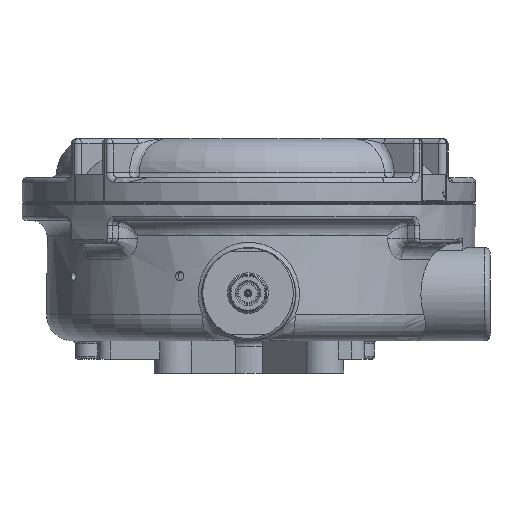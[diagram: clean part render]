
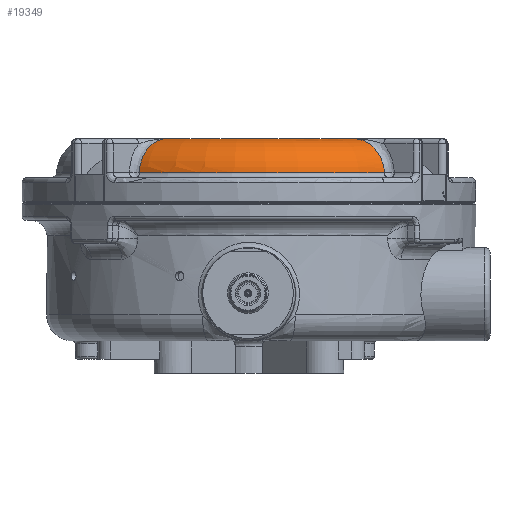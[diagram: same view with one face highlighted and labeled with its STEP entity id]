
A CAD part, left-side view. The second image highlights one B-rep face of the part: STEP entity #19349.
In plain terms, the highlighted toroidal (fillet/blend) face has major radius 60.5 mm and minor radius 14 mm.
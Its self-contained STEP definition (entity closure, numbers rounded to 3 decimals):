
#17139 = VERTEX_POINT('',#17140);
#17140 = CARTESIAN_POINT('',(-51.518,31.719,78.));
#17153 = EDGE_CURVE('',#17154,#17139,#17156,.T.);
#17154 = VERTEX_POINT('',#17155);
#17155 = CARTESIAN_POINT('',(-45.228,-40.183,78.));
#17156 = CIRCLE('',#17157,60.5);
#17157 = AXIS2_PLACEMENT_3D('',#17158,#17159,#17160);
#17158 = CARTESIAN_POINT('',(0.,0.,78.));
#17159 = DIRECTION('',(0.,0.,-1.));
#17160 = DIRECTION('',(-0.996,-0.087,-0.));
#19349 = ADVANCED_FACE('',(#19350),#19417,.T.);
#19350 = FACE_BOUND('',#19351,.T.);
#19351 = EDGE_LOOP('',(#19352,#19353,#19389,#19398,#19409));
#19352 = ORIENTED_EDGE('',*,*,#17153,.T.);
#19353 = ORIENTED_EDGE('',*,*,#19354,.F.);
#19354 = EDGE_CURVE('',#19355,#17139,#19357,.T.);
#19355 = VERTEX_POINT('',#19356);
#19356 = CARTESIAN_POINT('',(-61.31,42.276,64.875));
#19357 = B_SPLINE_CURVE_WITH_KNOTS('',3,(#19358,#19359,#19360,#19361,
    #19362,#19363,#19364,#19365,#19366,#19367,#19368,#19369,#19370,
    #19371,#19372,#19373,#19374,#19375,#19376,#19377,#19378,#19379,
    #19380,#19381,#19382,#19383,#19384,#19385,#19386,#19387,#19388),
  .UNSPECIFIED.,.F.,.F.,(4,3,3,3,3,3,3,3,3,3,4),(0.106,
    0.376,0.469,0.647,0.838,
    1.299,1.577,1.962,2.13,
    2.641,2.684),.UNSPECIFIED.);
#19358 = CARTESIAN_POINT('',(-61.31,42.276,
    64.875));
#19359 = CARTESIAN_POINT('',(-61.277,42.241,
    65.62));
#19360 = CARTESIAN_POINT('',(-61.202,42.162,
    66.367));
#19361 = CARTESIAN_POINT('',(-61.086,42.038,
    67.097));
#19362 = CARTESIAN_POINT('',(-61.046,41.996,
    67.346));
#19363 = CARTESIAN_POINT('',(-61.002,41.949,
    67.593));
#19364 = CARTESIAN_POINT('',(-60.953,41.897,
    67.838));
#19365 = CARTESIAN_POINT('',(-60.858,41.796,
    68.312));
#19366 = CARTESIAN_POINT('',(-60.746,41.678,
    68.777));
#19367 = CARTESIAN_POINT('',(-60.618,41.542,
    69.231));
#19368 = CARTESIAN_POINT('',(-60.481,41.396,
    69.716));
#19369 = CARTESIAN_POINT('',(-60.325,41.23,
    70.193));
#19370 = CARTESIAN_POINT('',(-60.149,41.043,
    70.655));
#19371 = CARTESIAN_POINT('',(-59.725,40.592,
    71.772));
#19372 = CARTESIAN_POINT('',(-59.19,40.022,
    72.808));
#19373 = CARTESIAN_POINT('',(-58.581,39.37,
    73.711));
#19374 = CARTESIAN_POINT('',(-58.215,38.979,
    74.255));
#19375 = CARTESIAN_POINT('',(-57.815,38.551,
    74.76));
#19376 = CARTESIAN_POINT('',(-57.39,38.094,
    75.214));
#19377 = CARTESIAN_POINT('',(-56.798,37.459,
    75.846));
#19378 = CARTESIAN_POINT('',(-56.156,36.768,
    76.379));
#19379 = CARTESIAN_POINT('',(-55.49,36.048,
    76.8));
#19380 = CARTESIAN_POINT('',(-55.2,35.735,
    76.983));
#19381 = CARTESIAN_POINT('',(-54.903,35.413,
    77.147));
#19382 = CARTESIAN_POINT('',(-54.6,35.085,
    77.29));
#19383 = CARTESIAN_POINT('',(-53.682,34.089,
    77.723));
#19384 = CARTESIAN_POINT('',(-52.715,33.034,
    77.961));
#19385 = CARTESIAN_POINT('',(-51.761,31.986,
    77.996));
#19386 = CARTESIAN_POINT('',(-51.68,31.897,
    77.999));
#19387 = CARTESIAN_POINT('',(-51.599,31.808,78.));
#19388 = CARTESIAN_POINT('',(-51.518,31.719,78.));
#19389 = ORIENTED_EDGE('',*,*,#19390,.F.);
#19390 = EDGE_CURVE('',#19391,#19355,#19393,.T.);
#19391 = VERTEX_POINT('',#19392);
#19392 = CARTESIAN_POINT('',(-53.037,-52.28,64.875));
#19393 = CIRCLE('',#19394,74.473);
#19394 = AXIS2_PLACEMENT_3D('',#19395,#19396,#19397);
#19395 = CARTESIAN_POINT('',(0.,0.,64.875));
#19396 = DIRECTION('',(0.,0.,-1.));
#19397 = DIRECTION('',(-0.996,-0.087,-0.));
#19398 = ORIENTED_EDGE('',*,*,#19399,.F.);
#19399 = EDGE_CURVE('',#19400,#19391,#19402,.T.);
#19400 = VERTEX_POINT('',#19401);
#19401 = CARTESIAN_POINT('',(-50.461,-48.339,
    74.395));
#19402 = B_SPLINE_CURVE_WITH_KNOTS('',3,(#19403,#19404,#19405,#19406,
    #19407,#19408),.UNSPECIFIED.,.F.,.F.,(4,1,1,4),(-8.164,
    -7.952,-7.213,-6.851),.UNSPECIFIED.);
#19403 = CARTESIAN_POINT('',(-50.46,-48.339,
    74.394));
#19404 = CARTESIAN_POINT('',(-50.701,-48.709,
    74.006));
#19405 = CARTESIAN_POINT('',(-51.722,-50.277,
    72.147));
#19406 = CARTESIAN_POINT('',(-52.713,-51.786,
    68.898));
#19407 = CARTESIAN_POINT('',(-53.002,-52.227,
    65.874));
#19408 = CARTESIAN_POINT('',(-53.037,-52.28,
    64.875));
#19409 = ORIENTED_EDGE('',*,*,#19410,.F.);
#19410 = EDGE_CURVE('',#17154,#19400,#19411,.T.);
#19411 = B_SPLINE_CURVE_WITH_KNOTS('',3,(#19412,#19413,#19414,#19415,
    #19416),.UNSPECIFIED.,.F.,.F.,(4,1,4),(-9.428,
    -8.69,-8.164),.UNSPECIFIED.);
#19412 = CARTESIAN_POINT('',(-45.228,-40.183,78.));
#19413 = CARTESIAN_POINT('',(-46.326,-41.922,78.));
#19414 = CARTESIAN_POINT('',(-48.231,-44.903,
    77.27));
#19415 = CARTESIAN_POINT('',(-49.862,-47.419,
    75.357));
#19416 = CARTESIAN_POINT('',(-50.46,-48.339,
    74.394));
#19417 = TOROIDAL_SURFACE('',#19418,60.5,14.);
#19418 = AXIS2_PLACEMENT_3D('',#19419,#19420,#19421);
#19419 = CARTESIAN_POINT('',(0.,0.,64.));
#19420 = DIRECTION('',(0.,0.,-1.));
#19421 = DIRECTION('',(-1.,0.,0.));
